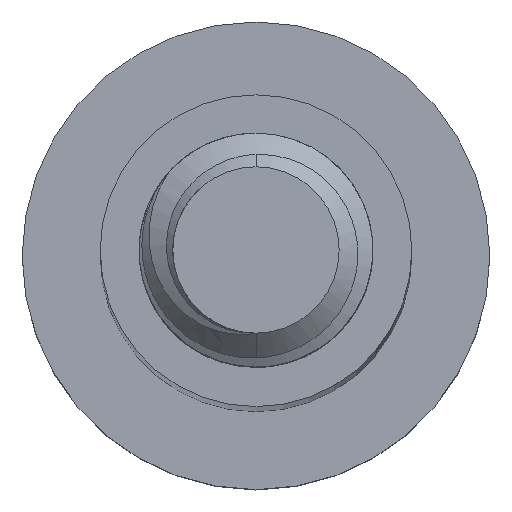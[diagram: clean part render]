
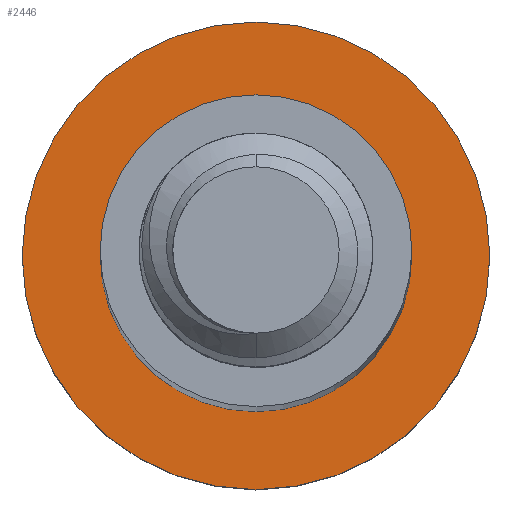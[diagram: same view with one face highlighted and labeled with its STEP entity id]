
A CAD part, top view. The second image highlights one B-rep face of the part: STEP entity #2446.
In plain terms, the highlighted planar face has unit normal (0, 0, 1).
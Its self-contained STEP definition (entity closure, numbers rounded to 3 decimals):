
#172 = DIRECTION ( 'NONE',  ( -1., 0., 0. ) ) ;
#194 = CARTESIAN_POINT ( 'NONE',  ( 0., 0., -75. ) ) ;
#213 = ORIENTED_EDGE ( 'NONE', *, *, #3838, .F. ) ;
#222 = AXIS2_PLACEMENT_3D ( 'NONE', #585, #3152, #1894 ) ;
#585 = CARTESIAN_POINT ( 'NONE',  ( 0., 0., -75. ) ) ;
#847 = CARTESIAN_POINT ( 'NONE',  ( -6., 0., -75. ) ) ;
#1110 = CARTESIAN_POINT ( 'NONE',  ( 0., 0., -75. ) ) ;
#1122 = EDGE_CURVE ( 'NONE', #2385, #4243, #1470, .T. ) ;
#1215 = ORIENTED_EDGE ( 'NONE', *, *, #3390, .T. ) ;
#1277 = DIRECTION ( 'NONE',  ( -1., 0., 0. ) ) ;
#1297 = ORIENTED_EDGE ( 'NONE', *, *, #1980, .T. ) ;
#1426 = VERTEX_POINT ( 'NONE', #2442 ) ;
#1467 = CARTESIAN_POINT ( 'NONE',  ( 0., 0., -75. ) ) ;
#1470 = CIRCLE ( 'NONE', #1814, 6. ) ;
#1512 = DIRECTION ( 'NONE',  ( -1., 0., 0. ) ) ;
#1735 = DIRECTION ( 'NONE',  ( 0., 0., -1. ) ) ;
#1755 = DIRECTION ( 'NONE',  ( -1., 0., 0. ) ) ;
#1757 = EDGE_LOOP ( 'NONE', ( #1297, #1215 ) ) ;
#1810 = DIRECTION ( 'NONE',  ( 0., 0., -1. ) ) ;
#1814 = AXIS2_PLACEMENT_3D ( 'NONE', #1467, #1810, #172 ) ;
#1878 = DIRECTION ( 'NONE',  ( 0., 0., -1. ) ) ;
#1894 = DIRECTION ( 'NONE',  ( -1., 0., 0. ) ) ;
#1980 = EDGE_CURVE ( 'NONE', #1426, #2443, #3692, .T. ) ;
#2090 = CIRCLE ( 'NONE', #222, 4. ) ;
#2184 = AXIS2_PLACEMENT_3D ( 'NONE', #1110, #1735, #1755 ) ;
#2206 = ORIENTED_EDGE ( 'NONE', *, *, #1122, .F. ) ;
#2379 = CARTESIAN_POINT ( 'NONE',  ( 0., 0., -75. ) ) ;
#2385 = VERTEX_POINT ( 'NONE', #847 ) ;
#2386 = CARTESIAN_POINT ( 'NONE',  ( 6., 0., -75. ) ) ;
#2442 = CARTESIAN_POINT ( 'NONE',  ( -4., 0., -75. ) ) ;
#2443 = VERTEX_POINT ( 'NONE', #4263 ) ;
#2446 = ADVANCED_FACE ( 'NONE', ( #4062, #3739 ), #3722, .F. ) ;
#3152 = DIRECTION ( 'NONE',  ( 0., 0., -1. ) ) ;
#3344 = CIRCLE ( 'NONE', #3474, 6. ) ;
#3390 = EDGE_CURVE ( 'NONE', #2443, #1426, #2090, .T. ) ;
#3474 = AXIS2_PLACEMENT_3D ( 'NONE', #194, #1878, #1512 ) ;
#3622 = DIRECTION ( 'NONE',  ( 0., 0., -1. ) ) ;
#3692 = CIRCLE ( 'NONE', #3817, 4. ) ;
#3722 = PLANE ( 'NONE',  #2184 ) ;
#3739 = FACE_OUTER_BOUND ( 'NONE', #3816, .T. ) ;
#3816 = EDGE_LOOP ( 'NONE', ( #213, #2206 ) ) ;
#3817 = AXIS2_PLACEMENT_3D ( 'NONE', #2379, #3622, #1277 ) ;
#3838 = EDGE_CURVE ( 'NONE', #4243, #2385, #3344, .T. ) ;
#4062 = FACE_BOUND ( 'NONE', #1757, .T. ) ;
#4243 = VERTEX_POINT ( 'NONE', #2386 ) ;
#4263 = CARTESIAN_POINT ( 'NONE',  ( 4., 0., -75. ) ) ;
